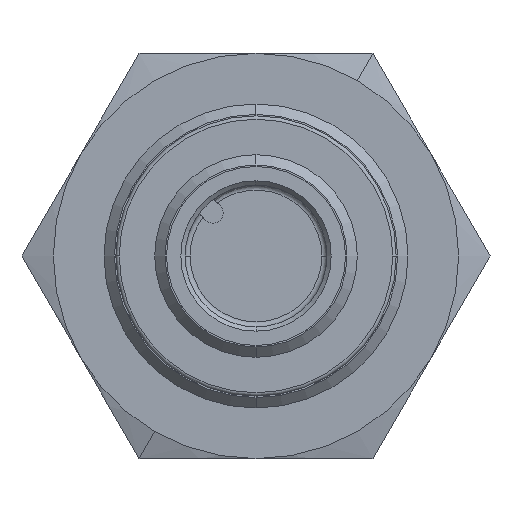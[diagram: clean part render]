
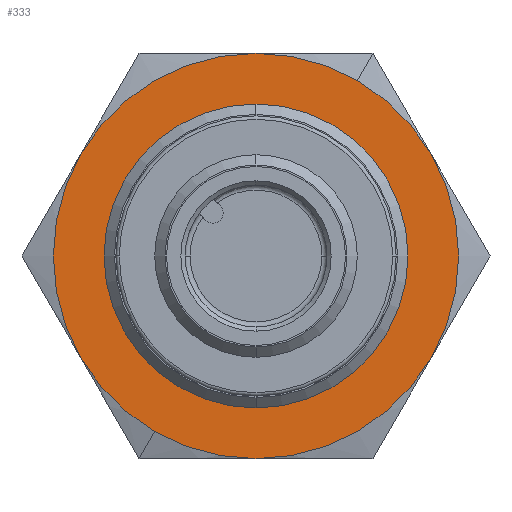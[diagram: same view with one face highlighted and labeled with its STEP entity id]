
A CAD part, front view. The second image highlights one B-rep face of the part: STEP entity #333.
In plain terms, the highlighted planar face has unit normal (0, -1, 0).
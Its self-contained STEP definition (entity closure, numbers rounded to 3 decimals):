
#333 = ADVANCED_FACE( '', ( #610, #611 ), #612, .T. );
#610 = FACE_BOUND( '', #928, .T. );
#611 = FACE_OUTER_BOUND( '', #929, .T. );
#612 = PLANE( '', #930 );
#928 = EDGE_LOOP( '', ( #1892, #1893 ) );
#929 = EDGE_LOOP( '', ( #1894, #1895, #1896, #1897, #1898, #1899, #1900, #1901 ) );
#930 = AXIS2_PLACEMENT_3D( '', #1902, #1903, #1904 );
#1892 = ORIENTED_EDGE( '', *, *, #2404, .T. );
#1893 = ORIENTED_EDGE( '', *, *, #2455, .T. );
#1894 = ORIENTED_EDGE( '', *, *, #2447, .F. );
#1895 = ORIENTED_EDGE( '', *, *, #2448, .F. );
#1896 = ORIENTED_EDGE( '', *, *, #2443, .F. );
#1897 = ORIENTED_EDGE( '', *, *, #2444, .F. );
#1898 = ORIENTED_EDGE( '', *, *, #2416, .F. );
#1899 = ORIENTED_EDGE( '', *, *, #2445, .F. );
#1900 = ORIENTED_EDGE( '', *, *, #2446, .F. );
#1901 = ORIENTED_EDGE( '', *, *, #2412, .F. );
#1902 = CARTESIAN_POINT( '', ( -3., 31.986, -5.196 ) );
#1903 = DIRECTION( '', ( 0., -1., 0. ) );
#1904 = DIRECTION( '', ( 0.5, 0., 0.866 ) );
#2404 = EDGE_CURVE( '', #2908, #2910, #2912, .T. );
#2412 = EDGE_CURVE( '', #2925, #2928, #2929, .T. );
#2416 = EDGE_CURVE( '', #2934, #2932, #2936, .T. );
#2443 = EDGE_CURVE( '', #2970, #2961, #2979, .T. );
#2444 = EDGE_CURVE( '', #2932, #2970, #2980, .T. );
#2445 = EDGE_CURVE( '', #2938, #2934, #2981, .T. );
#2446 = EDGE_CURVE( '', #2928, #2938, #2982, .T. );
#2447 = EDGE_CURVE( '', #2949, #2925, #2983, .T. );
#2448 = EDGE_CURVE( '', #2961, #2949, #2984, .T. );
#2455 = EDGE_CURVE( '', #2910, #2908, #2991, .T. );
#2908 = VERTEX_POINT( '', #3938 );
#2910 = VERTEX_POINT( '', #3941 );
#2912 = CIRCLE( '', #3944, 9. );
#2925 = VERTEX_POINT( '', #3977 );
#2928 = VERTEX_POINT( '', #3981 );
#2929 = CIRCLE( '', #3982, 12. );
#2932 = VERTEX_POINT( '', #3994 );
#2934 = VERTEX_POINT( '', #3997 );
#2936 = CIRCLE( '', #4008, 12. );
#2938 = VERTEX_POINT( '', #4010 );
#2949 = VERTEX_POINT( '', #4059 );
#2961 = VERTEX_POINT( '', #4127 );
#2970 = VERTEX_POINT( '', #4173 );
#2979 = CIRCLE( '', #4237, 12. );
#2980 = CIRCLE( '', #4238, 12. );
#2981 = CIRCLE( '', #4239, 12. );
#2982 = CIRCLE( '', #4240, 12. );
#2983 = CIRCLE( '', #4241, 12. );
#2984 = CIRCLE( '', #4242, 12. );
#2991 = CIRCLE( '', #4249, 9. );
#3938 = CARTESIAN_POINT( '', ( -4.5, 31.986, -7.794 ) );
#3941 = CARTESIAN_POINT( '', ( 4.5, 31.986, 7.794 ) );
#3944 = AXIS2_PLACEMENT_3D( '', #5021, #5022, #5023 );
#3977 = CARTESIAN_POINT( '', ( -6., 31.986, -10.392 ) );
#3981 = CARTESIAN_POINT( '', ( -10.392, 31.986, -6. ) );
#3982 = AXIS2_PLACEMENT_3D( '', #5033, #5034, #5035 );
#3994 = CARTESIAN_POINT( '', ( 6., 31.986, 10.392 ) );
#3997 = CARTESIAN_POINT( '', ( 0., 31.986, 12. ) );
#4008 = AXIS2_PLACEMENT_3D( '', #5037, #5038, #5039 );
#4010 = CARTESIAN_POINT( '', ( -10.392, 31.986, 6. ) );
#4059 = CARTESIAN_POINT( '', ( 0., 31.986, -12. ) );
#4127 = CARTESIAN_POINT( '', ( 10.392, 31.986, -6. ) );
#4173 = CARTESIAN_POINT( '', ( 10.392, 31.986, 6. ) );
#4237 = AXIS2_PLACEMENT_3D( '', #5046, #5047, #5048 );
#4238 = AXIS2_PLACEMENT_3D( '', #5049, #5050, #5051 );
#4239 = AXIS2_PLACEMENT_3D( '', #5052, #5053, #5054 );
#4240 = AXIS2_PLACEMENT_3D( '', #5055, #5056, #5057 );
#4241 = AXIS2_PLACEMENT_3D( '', #5058, #5059, #5060 );
#4242 = AXIS2_PLACEMENT_3D( '', #5061, #5062, #5063 );
#4249 = AXIS2_PLACEMENT_3D( '', #5082, #5083, #5084 );
#5021 = CARTESIAN_POINT( '', ( 0., 31.986, 0. ) );
#5022 = DIRECTION( '', ( 0., 1., 0. ) );
#5023 = DIRECTION( '', ( -0.5, 0., -0.866 ) );
#5033 = CARTESIAN_POINT( '', ( 0., 31.986, 0. ) );
#5034 = DIRECTION( '', ( 0., 1., 0. ) );
#5035 = DIRECTION( '', ( -0.5, 0., -0.866 ) );
#5037 = CARTESIAN_POINT( '', ( 0., 31.986, 0. ) );
#5038 = DIRECTION( '', ( 0., 1., 0. ) );
#5039 = DIRECTION( '', ( -0.5, 0., -0.866 ) );
#5046 = CARTESIAN_POINT( '', ( 0., 31.986, 0. ) );
#5047 = DIRECTION( '', ( 0., 1., 0. ) );
#5048 = DIRECTION( '', ( -0.5, 0., -0.866 ) );
#5049 = CARTESIAN_POINT( '', ( 0., 31.986, 0. ) );
#5050 = DIRECTION( '', ( 0., 1., 0. ) );
#5051 = DIRECTION( '', ( -0.5, 0., -0.866 ) );
#5052 = CARTESIAN_POINT( '', ( 0., 31.986, 0. ) );
#5053 = DIRECTION( '', ( 0., 1., 0. ) );
#5054 = DIRECTION( '', ( -0.5, 0., -0.866 ) );
#5055 = CARTESIAN_POINT( '', ( 0., 31.986, 0. ) );
#5056 = DIRECTION( '', ( 0., 1., 0. ) );
#5057 = DIRECTION( '', ( -0.5, 0., -0.866 ) );
#5058 = CARTESIAN_POINT( '', ( 0., 31.986, 0. ) );
#5059 = DIRECTION( '', ( 0., 1., 0. ) );
#5060 = DIRECTION( '', ( -0.5, 0., -0.866 ) );
#5061 = CARTESIAN_POINT( '', ( 0., 31.986, 0. ) );
#5062 = DIRECTION( '', ( 0., 1., 0. ) );
#5063 = DIRECTION( '', ( -0.5, 0., -0.866 ) );
#5082 = CARTESIAN_POINT( '', ( 0., 31.986, 0. ) );
#5083 = DIRECTION( '', ( 0., 1., 0. ) );
#5084 = DIRECTION( '', ( -0.5, 0., -0.866 ) );
